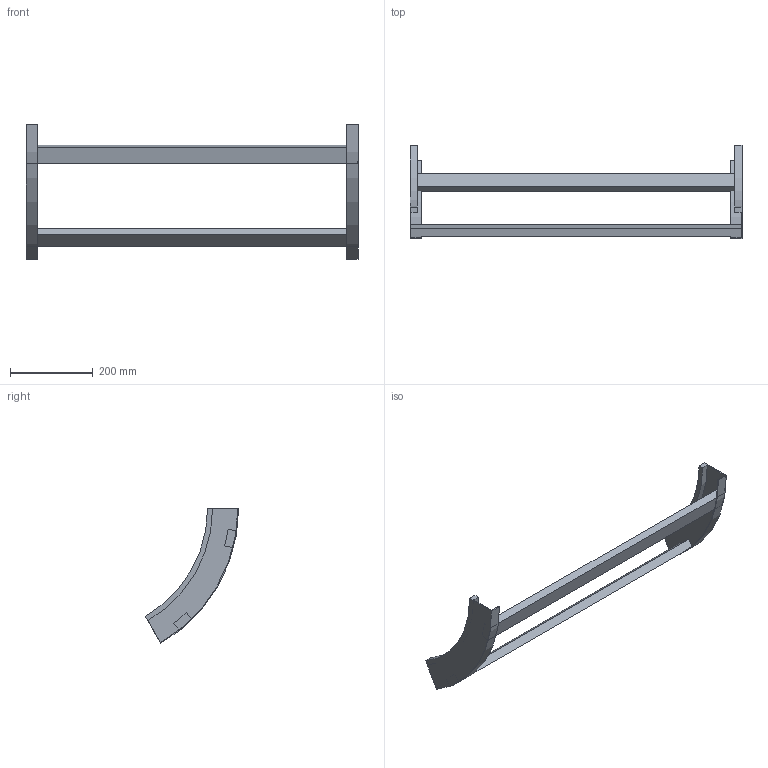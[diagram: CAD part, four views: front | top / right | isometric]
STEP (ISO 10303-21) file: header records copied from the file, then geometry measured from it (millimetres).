
FILE_DESCRIPTION (( 'STEP AP214' ), '1' );
FILE_NAME ('B2X40B3C800XX.step', '2025-03-20T10:18:08', ( '' ), ( '' ), 'SwSTEP 2.0', 'SolidWorks 2023', '' );
FILE_SCHEMA (( 'AUTOMOTIVE_DESIGN' ));
Length unit declared in the file: millimetre
Products named in the file (3): B2_LONGH.SALITA_60°_H75_R300; TRAVERSINO_800; B2X40B3C800XX
Assembly tree (4 placements, depth 2):
  B2X40B3C800XX
    B2_LONGH.SALITA_60°_H75_R300  x2
    TRAVERSINO_800  x2
Bounding box: 800 x 225 x 324.76 mm (x, y, z)
Volume: 1557763.8 mm3; surface area: 365969.7 mm2
Topology: 4 solids, 4 shells, 32 faces, 72 edges, 48 vertices
Faces by surface type: plane 24, cylinder 8
Entity records: 552 total; most frequent: DIRECTION 90, CARTESIAN_POINT 83, ORIENTED_EDGE 72, EDGE_CURVE 36, AXIS2_PLACEMENT_3D 31, VECTOR 28, LINE 28, VERTEX_POINT 24
